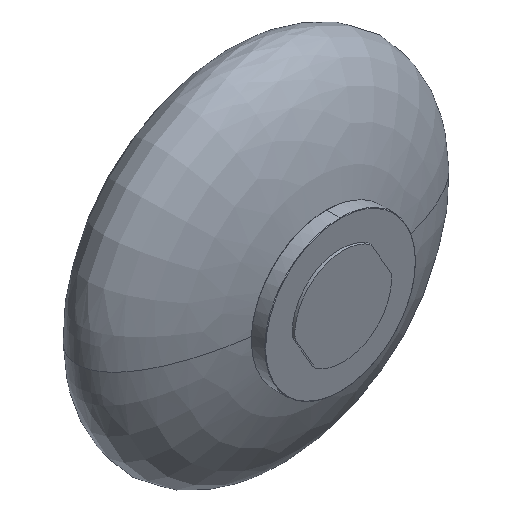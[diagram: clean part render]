
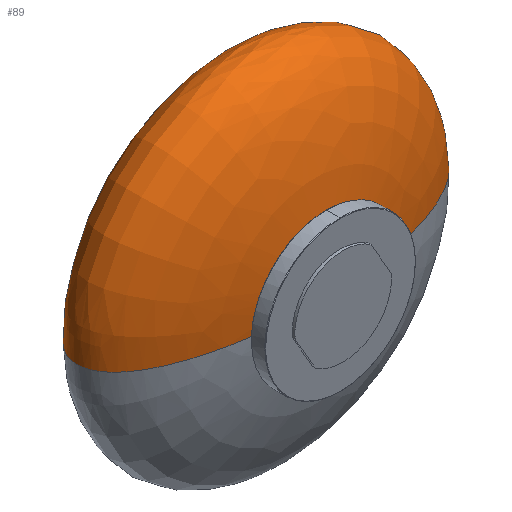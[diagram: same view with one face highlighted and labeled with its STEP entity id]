
A CAD part, isometric view. The second image highlights one B-rep face of the part: STEP entity #89.
In plain terms, the highlighted free-form (B-spline) face has degree [2, 2] with [5, 5] control points.
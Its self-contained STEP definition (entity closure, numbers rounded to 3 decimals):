
#89=ADVANCED_FACE('',(#138),#735,.T.);
#138=FACE_OUTER_BOUND('',#196,.T.);
#196=EDGE_LOOP('',(#386,#387,#388,#389));
#386=ORIENTED_EDGE('',*,*,#490,.T.);
#387=ORIENTED_EDGE('',*,*,#504,.F.);
#388=ORIENTED_EDGE('',*,*,#507,.F.);
#389=ORIENTED_EDGE('',*,*,#506,.F.);
#490=EDGE_CURVE('',#673,#670,#616,.T.);
#504=EDGE_CURVE('',#683,#670,#561,.T.);
#506=EDGE_CURVE('',#673,#685,#618,.T.);
#507=EDGE_CURVE('',#685,#683,#563,.T.);
#561=B_SPLINE_CURVE_WITH_KNOTS('',3,(#2494,#2495,#2496,#2497,#2498,#2499,
#2500,#2501,#2502,#2503,#2504),.UNSPECIFIED.,.F.,.F.,(4,1,1,1,1,1,1,1,4),
(123.994,129.63,135.266,146.538,169.083,
185.991,202.899,219.808,236.716),
 .UNSPECIFIED.);
#563=B_SPLINE_CURVE_WITH_KNOTS('',3,(#2515,#2516,#2517,#2518),
 .UNSPECIFIED.,.F.,.F.,(4,4),(118.358,123.994),
 .UNSPECIFIED.);
#616=(
BOUNDED_CURVE()
B_SPLINE_CURVE(2,(#2318,#2319,#2320,#2321,#2322),.UNSPECIFIED.,.F.,.F.)
B_SPLINE_CURVE_WITH_KNOTS((3,2,3),(0.,192.292,317.446),
 .UNSPECIFIED.)
CURVE()
GEOMETRIC_REPRESENTATION_ITEM()
RATIONAL_B_SPLINE_CURVE((1.,0.707,1.,0.827,1.))
REPRESENTATION_ITEM('')
);
#618=(
BOUNDED_CURVE()
B_SPLINE_CURVE(2,(#2510,#2511,#2512,#2513,#2514),.UNSPECIFIED.,.F.,.F.)
B_SPLINE_CURVE_WITH_KNOTS((3,2,3),(0.,181.421,317.447),
 .UNSPECIFIED.)
CURVE()
GEOMETRIC_REPRESENTATION_ITEM()
RATIONAL_B_SPLINE_CURVE((1.,0.707,1.,0.827,1.))
REPRESENTATION_ITEM('')
);
#670=VERTEX_POINT('',#2262);
#673=VERTEX_POINT('',#2265);
#683=VERTEX_POINT('',#2275);
#685=VERTEX_POINT('',#2277);
#735=(
BOUNDED_SURFACE()
B_SPLINE_SURFACE(2,2,((#1944,#1945,#1946,#1947,#1948),(#1949,#1950,#1951,
#1952,#1953),(#1954,#1955,#1956,#1957,#1958),(#1959,#1960,#1961,#1962,#1963),
(#1964,#1965,#1966,#1967,#1968)),.UNSPECIFIED.,.F.,.F.,.F.)
B_SPLINE_SURFACE_WITH_KNOTS((3,2,3),(3,2,3),(0.,181.421,362.843),
(0.,200.,400.),.UNSPECIFIED.)
GEOMETRIC_REPRESENTATION_ITEM()
RATIONAL_B_SPLINE_SURFACE(((1.,0.707,1.,0.707,1.),
(0.707,0.5,0.707,0.5,0.707),(1.,0.707,
1.,0.707,1.),(0.707,0.5,0.707,0.5,0.707),
(1.,0.707,1.,0.707,1.)))
REPRESENTATION_ITEM('')
SURFACE()
);
#1944=CARTESIAN_POINT('',(0.,-40.,0.));
#1945=CARTESIAN_POINT('',(0.,-40.,0.));
#1946=CARTESIAN_POINT('',(0.,-40.,0.));
#1947=CARTESIAN_POINT('',(0.,-40.,0.));
#1948=CARTESIAN_POINT('',(0.,-40.,0.));
#1949=CARTESIAN_POINT('',(100.,-40.,0.));
#1950=CARTESIAN_POINT('',(100.,-40.,100.));
#1951=CARTESIAN_POINT('',(0.,-40.,100.));
#1952=CARTESIAN_POINT('',(-100.,-40.,100.));
#1953=CARTESIAN_POINT('',(-100.,-40.,0.));
#1954=CARTESIAN_POINT('',(100.,0.,0.));
#1955=CARTESIAN_POINT('',(100.,0.,100.));
#1956=CARTESIAN_POINT('',(0.,0.,100.));
#1957=CARTESIAN_POINT('',(-100.,0.,100.));
#1958=CARTESIAN_POINT('',(-100.,0.,0.));
#1959=CARTESIAN_POINT('',(100.,40.,0.));
#1960=CARTESIAN_POINT('',(100.,40.,100.));
#1961=CARTESIAN_POINT('',(0.,40.,100.));
#1962=CARTESIAN_POINT('',(-100.,40.,100.));
#1963=CARTESIAN_POINT('',(-100.,40.,0.));
#1964=CARTESIAN_POINT('',(0.,40.,0.));
#1965=CARTESIAN_POINT('',(0.,40.,0.));
#1966=CARTESIAN_POINT('',(0.,40.,0.));
#1967=CARTESIAN_POINT('',(0.,40.,0.));
#1968=CARTESIAN_POINT('',(0.,40.,0.));
#2262=CARTESIAN_POINT('',(36.843,37.186,0.));
#2265=CARTESIAN_POINT('',(0.,-40.,0.));
#2275=CARTESIAN_POINT('',(-36.438,37.186,5.491));
#2277=CARTESIAN_POINT('',(-36.842,37.186,0.));
#2318=CARTESIAN_POINT('',(0.,-40.,0.));
#2319=CARTESIAN_POINT('',(100.,-40.,0.));
#2320=CARTESIAN_POINT('',(100.,0.,0.));
#2321=CARTESIAN_POINT('',(100.,27.174,0.));
#2322=CARTESIAN_POINT('',(36.843,37.186,0.));
#2494=CARTESIAN_POINT('',(-36.438,37.186,5.491));
#2495=CARTESIAN_POINT('',(-36.163,37.186,7.308));
#2496=CARTESIAN_POINT('',(-35.334,37.186,10.903));
#2497=CARTESIAN_POINT('',(-32.645,37.186,17.754));
#2498=CARTESIAN_POINT('',(-25.336,37.186,28.534));
#2499=CARTESIAN_POINT('',(-10.375,37.186,37.164));
#2500=CARTESIAN_POINT('',(8.485,37.186,37.14));
#2501=CARTESIAN_POINT('',(23.754,37.186,29.794));
#2502=CARTESIAN_POINT('',(34.333,37.186,16.529));
#2503=CARTESIAN_POINT('',(36.843,37.186,5.512));
#2504=CARTESIAN_POINT('',(36.843,37.186,0.));
#2510=CARTESIAN_POINT('',(0.,-40.,0.));
#2511=CARTESIAN_POINT('',(-100.,-40.,0.));
#2512=CARTESIAN_POINT('',(-100.,0.,0.));
#2513=CARTESIAN_POINT('',(-100.,27.175,0.));
#2514=CARTESIAN_POINT('',(-36.842,37.186,0.));
#2515=CARTESIAN_POINT('',(-36.842,37.186,0.));
#2516=CARTESIAN_POINT('',(-36.846,37.186,1.837));
#2517=CARTESIAN_POINT('',(-36.712,37.186,3.674));
#2518=CARTESIAN_POINT('',(-36.438,37.186,5.491));
